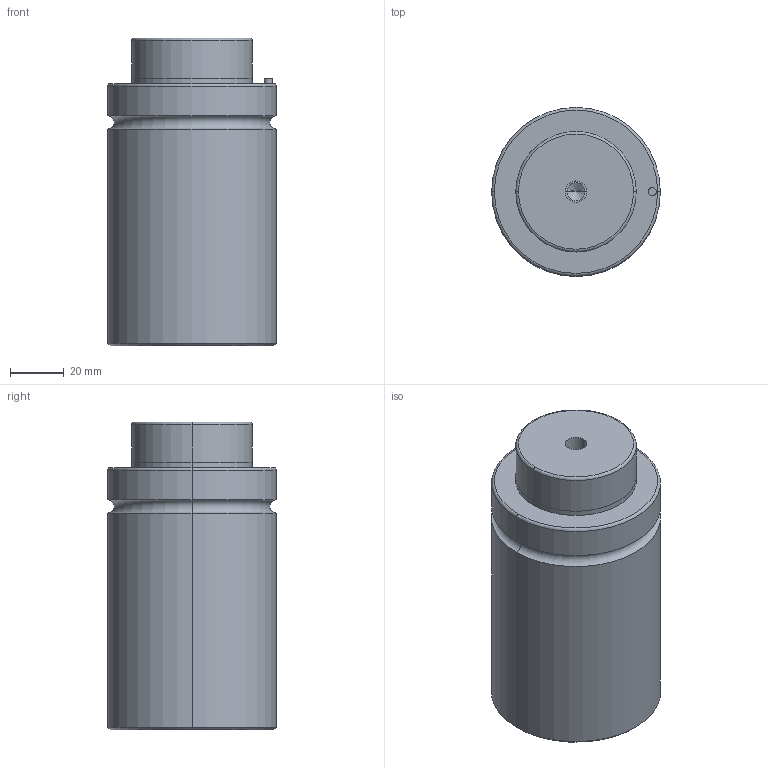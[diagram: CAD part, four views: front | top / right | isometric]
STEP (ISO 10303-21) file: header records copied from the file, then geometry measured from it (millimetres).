
FILE_DESCRIPTION(/* description */ (''),/* implementation_level */ '2;1');
FILE_NAME(/* name */ '3d_gsm63-15_03901_r00.stp',/* time_stamp */ '2011-01-10T14:15:15+09:00',/* author */ ('MISUMI'),/* organization */ (''),/* preprocessor_version */ 'ST-DEVELOPER v11',/* originating_system */ 'UGS - NX 5.0',/* authorisation */ '');
FILE_SCHEMA (('CONFIG_CONTROL_DESIGN'));
Length unit declared in the file: millimetre
Products named in the file (1): 3d_gsm63-15_03901_r00
Bounding box: 63 x 63 x 115 mm (x, y, z)
Volume: 327621.5 mm3; surface area: 29718.5 mm2
Topology: 1 solids, 1 shells, 50 faces, 106 edges, 60 vertices
Faces by surface type: cylinder 26, cone 10, plane 8, torus 6
Entity records: 1382 total; most frequent: DIRECTION 262, CARTESIAN_POINT 209, ORIENTED_EDGE 196, AXIS2_PLACEMENT_3D 113, EDGE_CURVE 98, CIRCLE 62, EDGE_LOOP 60, VERTEX_POINT 60
